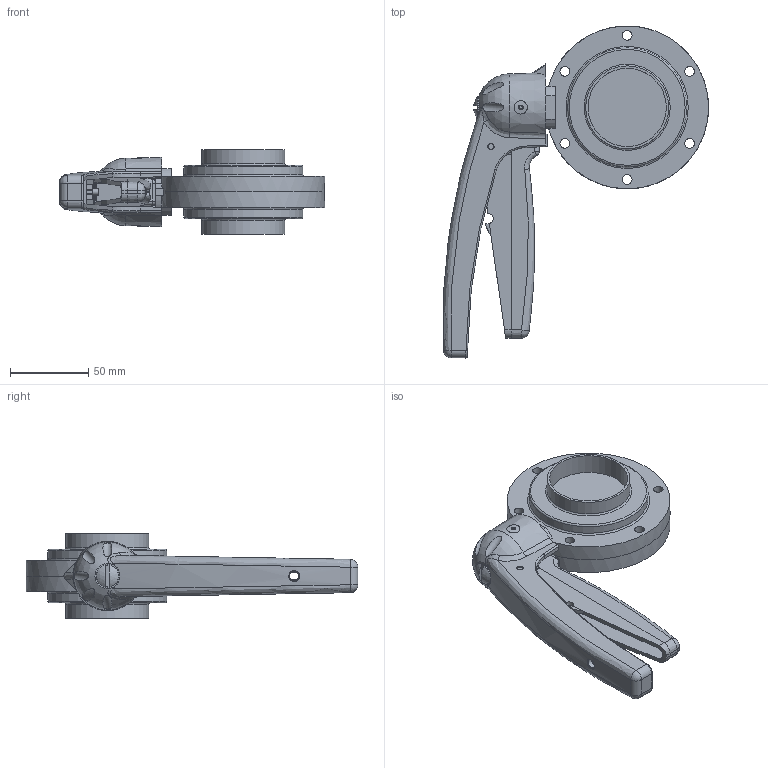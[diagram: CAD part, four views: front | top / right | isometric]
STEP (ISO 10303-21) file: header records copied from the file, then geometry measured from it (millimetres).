
FILE_DESCRIPTION(/* description */ ('VVF VALV.FARF.DN 53X1.5 SS EPDM 316 LEVA 5POS.'),/* implementation_level */ '2;1');
FILE_NAME(/* name */ 'C:\_DED_PWS\GIOR-G\DB\B\EBA\BEBACG050BEAA-00^SAGOMA.step',/* time_stamp */ '2020-06-12T13:53:27+02:00',/* author */ (''),/* organization */ (''),/* preprocessor_version */ 'ST-DEVELOPER v18',/* originating_system */ 'Autodesk Inventor 2020',/* authorisation */ '');
FILE_SCHEMA (('CONFIG_CONTROL_DESIGN'));
Length unit declared in the file: millimetre
Products named in the file (3): BEBACG050BEAA; Maniglia-5-posizioni-nuova-versione finale 01-2008- 25 - - 65; TWD006050BBA
Assembly tree (3 placements, depth 2):
  BEBACG050BEAA
    Maniglia-5-posizioni-nuova-versione finale 01-2008- 25 - - 65
    TWD006050BBA  x2
Bounding box: 169.39 x 212 x 54 mm (x, y, z)
Volume: 334907.6 mm3; surface area: 109314.9 mm2
Topology: 3 solids, 4 shells, 452 faces, 1225 edges, 796 vertices
Faces by surface type: plane 200, cylinder 108, bspline 81, cone 28, sphere 20, torus 15
Full cylindrical faces by diameter (mm): 4 x3, 6 x2, 6.2 x12, 6.5 x1, 13 x3, 14.5 x1, 50 x2, 53 x2, 76 x2, 104 x2
Entity records: 22794 total; most frequent: CARTESIAN_POINT 12107, ORIENTED_EDGE 2290, DIRECTION 1950, EDGE_CURVE 1145, VERTEX_POINT 739, AXIS2_PLACEMENT_3D 707, LINE 536, VECTOR 536
